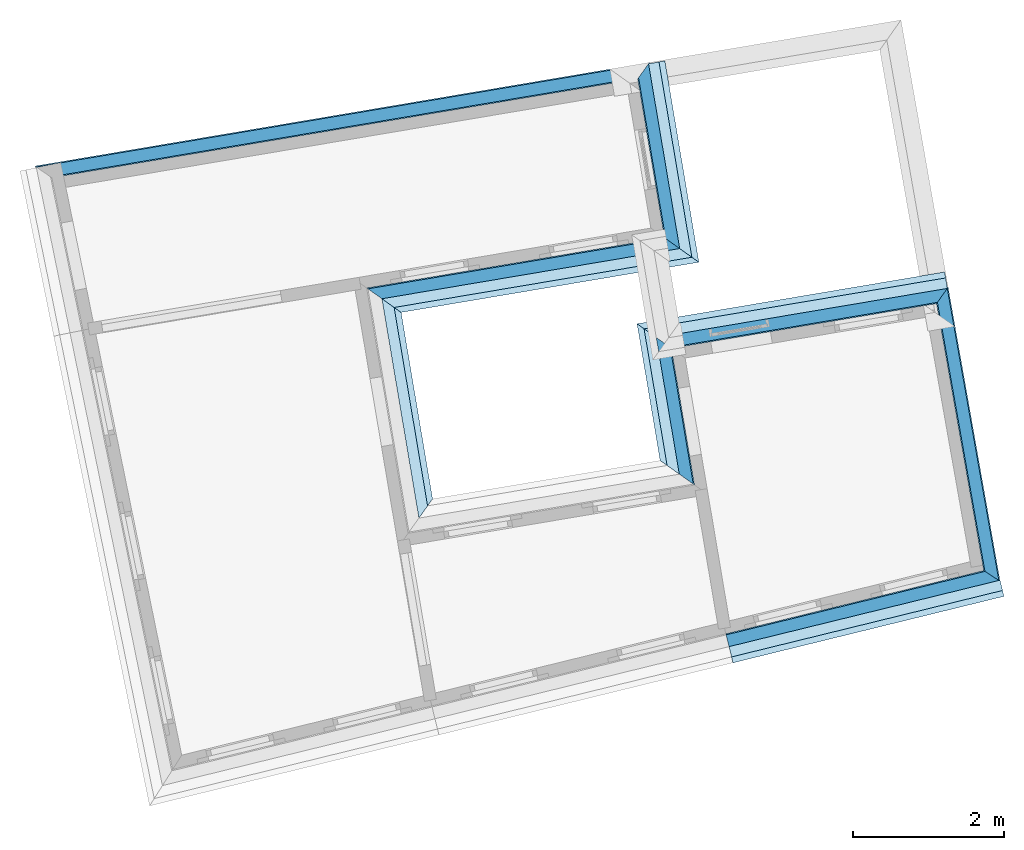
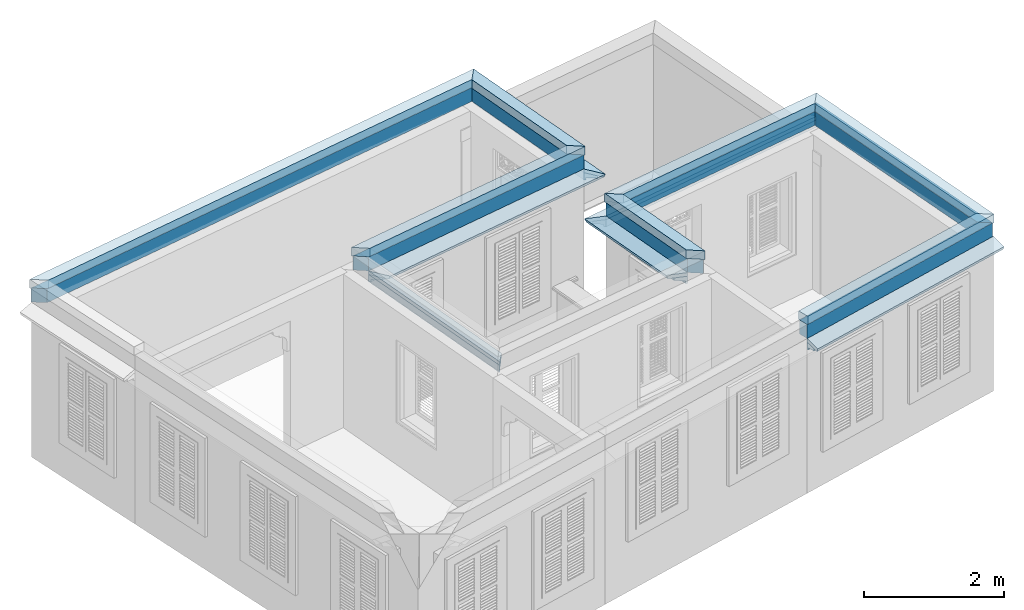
# One storey, part 11 of 12: 26 roofs.
"""IFC4 building model written with IfcOpenShell, lengths in metres."""

from ifc_helpers import new_model, si_unit, frame, origin_with_axes, place, context, subcontext, project, spatial, polyline, outline, extrude, clip, halfspace, material_profile, profile_set, profile_usage, type_object, element, save


model = new_model("IFC4")

# Units and contexts
model_context = context("Model", 3, world=origin_with_axes())
body_context = subcontext(model_context, "Body", "Model", "MODEL_VIEW")
ifc_project = project(units=[si_unit("PLANEANGLEUNIT", "RADIAN"), si_unit("MASSUNIT", "GRAM", prefix="KILO"), si_unit("FORCEUNIT", "NEWTON", prefix="KILO"), si_unit("LENGTHUNIT", "METRE"), si_unit("AREAUNIT", "SQUARE_METRE"), si_unit("VOLUMEUNIT", "CUBIC_METRE")], contexts=[model_context, model_context])

# Site, building, storey
site_placement = place(None, origin_with_axes())
site = spatial("IfcSite", under=ifc_project, at=site_placement, Name="Site plot-6", CompositionType="ELEMENT")
building_placement = place(None, origin_with_axes())
building = spatial("IfcBuilding", under=site, at=building_placement, Name="Building plot-6", CompositionType="ELEMENT")
storey_placement = place(None, frame((0.0, 0.0, 3.6), z_axis=(0.0, 0.0, 1.0), x_axis=(1.0, 0.0, 0.0)))
storey = spatial("IfcBuildingStorey", under=building, at=storey_placement, Name="plot-6 1", CompositionType="ELEMENT", Elevation=3.6)

# Roofs
ifc_material_profile_1 = material_profile(None, outline(polyline([(0.25, 0.0), (0.25, 0.245), (0.09, 0.245), (0.09, 0.0), (0.25, 0.0)])))
ifc_profile_set_1 = profile_set([ifc_material_profile_1])
ifc_profile_usage_1 = profile_usage(ifc_profile_set_1)
roof_type_1 = type_object("IfcRoofType", Name="roofline_0", PredefinedType="FREEFORM", material=ifc_profile_set_1)
roof_1_placement = place(storey_placement, frame((-3.73275172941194, 1.57765609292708, 2.7), z_axis=(0.986076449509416, 0.166292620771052, 0.0), x_axis=(-0.166292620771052, 0.986076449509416, 0.0)))
element("IfcRoof", 1, at=roof_1_placement, inside=storey, type_object=roof_type_1, material=ifc_profile_usage_1, Name="roofline_0", context=body_context, shape_type="Clipping", body=[
    clip(clip(extrude(outline(polyline([(0.25, 0.0), (0.25, 0.245), (0.09, 0.245), (0.09, 0.0), (0.25, 0.0)])), origin_with_axes(), (0.0, 0.0, 1.0), 5.39941404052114), halfspace(frame((0.0, 0.0, 4.39941404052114), z_axis=(0.704331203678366, 0.0, -0.709871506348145), x_axis=(0.0, 1.0, 0.0)), True)), halfspace(frame((0.0, 0.0, 1.0), z_axis=(-0.707106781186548, 0.0, -0.707106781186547), x_axis=(0.0, 1.0, 0.0)), False)),
])
ifc_profile_usage_2 = profile_usage(ifc_profile_set_1)
roof_2_placement = place(storey_placement, frame((-2.27599194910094, -1.04709364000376, 2.7), z_axis=(-0.16629262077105, 0.986076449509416, 0.0), x_axis=(-0.986076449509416, -0.16629262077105, 0.0)))
element("IfcRoof", 2, at=roof_2_placement, inside=storey, type_object=roof_type_1, material=ifc_profile_usage_2, Name="roofline_0", context=body_context, shape_type="Clipping", body=[
    clip(clip(extrude(outline(polyline([(0.25, 0.0), (0.25, 0.245), (0.09, 0.245), (0.09, 0.0), (0.25, 0.0)])), origin_with_axes(), (0.0, 0.0, 1.0), 3.83045229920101), halfspace(frame((0.0, 0.0, 2.83045229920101), z_axis=(0.707106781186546, 0.0, -0.707106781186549), x_axis=(0.0, 1.0, 0.0)), True)), halfspace(frame((0.0, 0.0, 1.0), z_axis=(0.707106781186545, 0.0, -0.70710678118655), x_axis=(0.0, 1.0, 0.0)), False)),
])
ifc_profile_usage_3 = profile_usage(ifc_profile_set_1)
roof_3_placement = place(storey_placement, frame((-2.02778721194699, 3.49460610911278, 2.7), z_axis=(-0.986076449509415, -0.166292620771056, 0.0), x_axis=(0.166292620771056, -0.986076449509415, 0.0)))
element("IfcRoof", 3, at=roof_3_placement, inside=storey, type_object=roof_type_1, material=ifc_profile_usage_3, Name="roofline_0", context=body_context, shape_type="Clipping", body=[
    clip(clip(extrude(outline(polyline([(0.25, 0.0), (0.25, 0.245), (0.09, 0.245), (0.09, 0.0), (0.25, 0.0)])), origin_with_axes(), (0.0, 0.0, 1.0), 5.98805094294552), halfspace(frame((0.0, 0.0, 4.98805094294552), z_axis=(-0.707106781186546, 0.0, -0.707106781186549), x_axis=(0.0, 1.0, 0.0)), True)), halfspace(frame((0.0, 0.0, 1.0), z_axis=(-0.707106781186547, 0.0, -0.707106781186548), x_axis=(0.0, 1.0, 0.0)), False)),
])
ifc_profile_usage_4 = profile_usage(ifc_profile_set_1)
roof_4_placement = place(storey_placement, frame((-3.50871712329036, 6.26267908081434, 2.7), z_axis=(0.166292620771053, -0.986076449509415, 0.0), x_axis=(0.986076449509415, 0.166292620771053, 0.0)))
element("IfcRoof", 4, at=roof_4_placement, inside=storey, type_object=roof_type_1, material=ifc_profile_usage_4, Name="roofline_0", context=body_context, shape_type="Clipping", body=[
    clip(clip(extrude(outline(polyline([(0.25, 0.0), (0.25, 0.245), (0.09, 0.245), (0.09, 0.0), (0.25, 0.0)])), origin_with_axes(), (0.0, 0.0, 1.0), 3.975799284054), halfspace(frame((0.0, 0.0, 2.975799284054), z_axis=(0.707106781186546, 0.0, -0.707106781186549), x_axis=(0.0, 1.0, 0.0)), True)), halfspace(frame((0.0, 0.0, 1.0), z_axis=(-0.707106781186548, 0.0, -0.707106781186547), x_axis=(0.0, 1.0, 0.0)), False)),
])
ifc_profile_usage_5 = profile_usage(ifc_profile_set_1)
roof_5_placement = place(storey_placement, frame((-11.9140692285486, 3.83107448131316, 2.7), z_axis=(0.986076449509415, 0.166292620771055, 0.0), x_axis=(-0.166292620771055, 0.986076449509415, 0.0)))
element("IfcRoof", 5, at=roof_5_placement, inside=storey, type_object=roof_type_1, material=ifc_profile_usage_5, Name="roofline_0", context=body_context, shape_type="Clipping", body=[
    clip(clip(extrude(outline(polyline([(0.25, 0.0), (0.25, 0.245), (0.09, 0.245), (0.09, 0.0), (0.25, 0.0)])), origin_with_axes(), (0.0, 0.0, 1.0), 9.69267766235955), halfspace(frame((0.0, 0.0, 8.69267766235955), z_axis=(0.707106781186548, 0.0, -0.707106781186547), x_axis=(0.0, 1.0, 0.0)), True)), halfspace(frame((0.0, 0.0, 1.0), z_axis=(-0.719105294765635, 0.0, -0.694901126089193), x_axis=(0.0, 1.0, 0.0)), False)),
])
ifc_profile_usage_6 = profile_usage(ifc_profile_set_1)
roof_6_placement = place(storey_placement, frame((2.17428946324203, -0.834754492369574, 2.7), z_axis=(-0.971213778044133, -0.238209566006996, 0.0), x_axis=(0.238209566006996, -0.971213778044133, 0.0)))
element("IfcRoof", 6, at=roof_6_placement, inside=storey, type_object=roof_type_1, material=ifc_profile_usage_6, Name="roofline_0", context=body_context, shape_type="Clipping", body=[
    clip(clip(extrude(outline(polyline([(0.25, 0.0), (0.25, 0.245), (0.09, 0.245), (0.09, 0.0), (0.25, 0.0)])), origin_with_axes(), (0.0, 0.0, 1.0), 5.43558857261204), halfspace(frame((0.0, 0.0, 4.43558857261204), z_axis=(-6.12323399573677e-17, 0.0, -1.0), x_axis=(0.0, 1.0, 0.0)), True)), halfspace(frame((0.0, 0.0, 1.0), z_axis=(-0.683530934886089, 0.0, -0.729921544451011), x_axis=(0.0, 1.0, 0.0)), False)),
])
ifc_profile_usage_7 = profile_usage(ifc_profile_set_1)
roof_7_placement = place(storey_placement, frame((0.431393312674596, 3.29398944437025, 2.7), z_axis=(0.174013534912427, -0.984743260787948, 0.0), x_axis=(0.984743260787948, 0.174013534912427, 0.0)))
element("IfcRoof", 7, at=roof_7_placement, inside=storey, type_object=roof_type_1, material=ifc_profile_usage_7, Name="roofline_0", context=body_context, shape_type="Clipping", body=[
    clip(clip(extrude(outline(polyline([(0.25, 0.0), (0.25, 0.245), (0.09, 0.245), (0.09, 0.0), (0.25, 0.0)])), origin_with_axes(), (0.0, 0.0, 1.0), 5.43461120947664), halfspace(frame((0.0, 0.0, 4.43461120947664), z_axis=(0.683530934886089, 0.0, -0.729921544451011), x_axis=(0.0, 1.0, 0.0)), True)), halfspace(frame((0.0, 0.0, 1.0), z_axis=(-0.704331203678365, 0.0, -0.709871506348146), x_axis=(0.0, 1.0, 0.0)), False)),
])
ifc_material_profile_2 = material_profile(None, outline(polyline([(0.265, 0.245), (0.265, 0.395), (0.075, 0.395), (0.075, 0.245), (0.265, 0.245)])))
ifc_profile_set_2 = profile_set([ifc_material_profile_2])
ifc_profile_usage_8 = profile_usage(ifc_profile_set_2)
roof_type_2 = type_object("IfcRoofType", Name="roofline_1", PredefinedType="FREEFORM", material=ifc_profile_set_2)
roof_8_placement = place(storey_placement, frame((-3.73275172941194, 1.57765609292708, 2.7), z_axis=(0.986076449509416, 0.166292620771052, 0.0), x_axis=(-0.166292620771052, 0.986076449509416, 0.0)))
element("IfcRoof", 8, at=roof_8_placement, inside=storey, type_object=roof_type_2, material=ifc_profile_usage_8, Name="roofline_1", context=body_context, shape_type="Clipping", body=[
    clip(clip(extrude(outline(polyline([(0.265, 0.245), (0.265, 0.395), (0.075, 0.395), (0.075, 0.245), (0.265, 0.245)])), origin_with_axes(), (0.0, 0.0, 1.0), 5.39941404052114), halfspace(frame((0.0, 0.0, 4.39941404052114), z_axis=(0.704331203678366, 0.0, -0.709871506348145), x_axis=(0.0, 1.0, 0.0)), True)), halfspace(frame((0.0, 0.0, 1.0), z_axis=(-0.707106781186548, 0.0, -0.707106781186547), x_axis=(0.0, 1.0, 0.0)), False)),
])
ifc_profile_usage_9 = profile_usage(ifc_profile_set_2)
roof_9_placement = place(storey_placement, frame((-2.27599194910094, -1.04709364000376, 2.7), z_axis=(-0.16629262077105, 0.986076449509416, 0.0), x_axis=(-0.986076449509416, -0.16629262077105, 0.0)))
element("IfcRoof", 9, at=roof_9_placement, inside=storey, type_object=roof_type_2, material=ifc_profile_usage_9, Name="roofline_1", context=body_context, shape_type="Clipping", body=[
    clip(clip(extrude(outline(polyline([(0.265, 0.245), (0.265, 0.395), (0.075, 0.395), (0.075, 0.245), (0.265, 0.245)])), origin_with_axes(), (0.0, 0.0, 1.0), 3.83045229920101), halfspace(frame((0.0, 0.0, 2.83045229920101), z_axis=(0.707106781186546, 0.0, -0.707106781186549), x_axis=(0.0, 1.0, 0.0)), True)), halfspace(frame((0.0, 0.0, 1.0), z_axis=(0.707106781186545, 0.0, -0.70710678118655), x_axis=(0.0, 1.0, 0.0)), False)),
])
ifc_profile_usage_10 = profile_usage(ifc_profile_set_2)
roof_10_placement = place(storey_placement, frame((-2.02778721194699, 3.49460610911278, 2.7), z_axis=(-0.986076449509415, -0.166292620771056, 0.0), x_axis=(0.166292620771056, -0.986076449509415, 0.0)))
element("IfcRoof", 10, at=roof_10_placement, inside=storey, type_object=roof_type_2, material=ifc_profile_usage_10, Name="roofline_1", context=body_context, shape_type="Clipping", body=[
    clip(clip(extrude(outline(polyline([(0.265, 0.245), (0.265, 0.395), (0.075, 0.395), (0.075, 0.245), (0.265, 0.245)])), origin_with_axes(), (0.0, 0.0, 1.0), 5.98805094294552), halfspace(frame((0.0, 0.0, 4.98805094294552), z_axis=(-0.707106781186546, 0.0, -0.707106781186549), x_axis=(0.0, 1.0, 0.0)), True)), halfspace(frame((0.0, 0.0, 1.0), z_axis=(-0.707106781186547, 0.0, -0.707106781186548), x_axis=(0.0, 1.0, 0.0)), False)),
])
ifc_profile_usage_11 = profile_usage(ifc_profile_set_2)
roof_11_placement = place(storey_placement, frame((-3.50871712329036, 6.26267908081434, 2.7), z_axis=(0.166292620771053, -0.986076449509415, 0.0), x_axis=(0.986076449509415, 0.166292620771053, 0.0)))
element("IfcRoof", 11, at=roof_11_placement, inside=storey, type_object=roof_type_2, material=ifc_profile_usage_11, Name="roofline_1", context=body_context, shape_type="Clipping", body=[
    clip(clip(extrude(outline(polyline([(0.265, 0.245), (0.265, 0.395), (0.075, 0.395), (0.075, 0.245), (0.265, 0.245)])), origin_with_axes(), (0.0, 0.0, 1.0), 3.975799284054), halfspace(frame((0.0, 0.0, 2.975799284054), z_axis=(0.707106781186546, 0.0, -0.707106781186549), x_axis=(0.0, 1.0, 0.0)), True)), halfspace(frame((0.0, 0.0, 1.0), z_axis=(-0.707106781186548, 0.0, -0.707106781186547), x_axis=(0.0, 1.0, 0.0)), False)),
])
ifc_profile_usage_12 = profile_usage(ifc_profile_set_2)
roof_12_placement = place(storey_placement, frame((-11.9140692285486, 3.83107448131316, 2.7), z_axis=(0.986076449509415, 0.166292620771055, 0.0), x_axis=(-0.166292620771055, 0.986076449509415, 0.0)))
element("IfcRoof", 12, at=roof_12_placement, inside=storey, type_object=roof_type_2, material=ifc_profile_usage_12, Name="roofline_1", context=body_context, shape_type="Clipping", body=[
    clip(clip(extrude(outline(polyline([(0.265, 0.245), (0.265, 0.395), (0.075, 0.395), (0.075, 0.245), (0.265, 0.245)])), origin_with_axes(), (0.0, 0.0, 1.0), 9.69267766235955), halfspace(frame((0.0, 0.0, 8.69267766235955), z_axis=(0.707106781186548, 0.0, -0.707106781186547), x_axis=(0.0, 1.0, 0.0)), True)), halfspace(frame((0.0, 0.0, 1.0), z_axis=(-0.719105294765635, 0.0, -0.694901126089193), x_axis=(0.0, 1.0, 0.0)), False)),
])
ifc_profile_usage_13 = profile_usage(ifc_profile_set_2)
roof_13_placement = place(storey_placement, frame((2.17428946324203, -0.834754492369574, 2.7), z_axis=(-0.971213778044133, -0.238209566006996, 0.0), x_axis=(0.238209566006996, -0.971213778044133, 0.0)))
element("IfcRoof", 13, at=roof_13_placement, inside=storey, type_object=roof_type_2, material=ifc_profile_usage_13, Name="roofline_1", context=body_context, shape_type="Clipping", body=[
    clip(clip(extrude(outline(polyline([(0.265, 0.245), (0.265, 0.395), (0.075, 0.395), (0.075, 0.245), (0.265, 0.245)])), origin_with_axes(), (0.0, 0.0, 1.0), 5.43558857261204), halfspace(frame((0.0, 0.0, 4.43558857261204), z_axis=(-6.12323399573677e-17, 0.0, -1.0), x_axis=(0.0, 1.0, 0.0)), True)), halfspace(frame((0.0, 0.0, 1.0), z_axis=(-0.683530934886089, 0.0, -0.729921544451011), x_axis=(0.0, 1.0, 0.0)), False)),
])
ifc_profile_usage_14 = profile_usage(ifc_profile_set_2)
roof_14_placement = place(storey_placement, frame((0.431393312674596, 3.29398944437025, 2.7), z_axis=(0.174013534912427, -0.984743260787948, 0.0), x_axis=(0.984743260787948, 0.174013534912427, 0.0)))
element("IfcRoof", 14, at=roof_14_placement, inside=storey, type_object=roof_type_2, material=ifc_profile_usage_14, Name="roofline_1", context=body_context, shape_type="Clipping", body=[
    clip(clip(extrude(outline(polyline([(0.265, 0.245), (0.265, 0.395), (0.075, 0.395), (0.075, 0.245), (0.265, 0.245)])), origin_with_axes(), (0.0, 0.0, 1.0), 5.43461120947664), halfspace(frame((0.0, 0.0, 4.43461120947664), z_axis=(0.683530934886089, 0.0, -0.729921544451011), x_axis=(0.0, 1.0, 0.0)), True)), halfspace(frame((0.0, 0.0, 1.0), z_axis=(-0.704331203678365, 0.0, -0.709871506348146), x_axis=(0.0, 1.0, 0.0)), False)),
])
ifc_material_profile_3 = material_profile(None, outline(polyline([(0.25, -0.19), (0.275, -0.19), (0.275, -0.15), (0.39, -0.15), (0.39, -0.107509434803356), (0.25, -0.0629639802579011), (0.25, -0.19)])))
ifc_profile_set_3 = profile_set([ifc_material_profile_3])
ifc_profile_usage_15 = profile_usage(ifc_profile_set_3)
roof_type_3 = type_object("IfcRoofType", Name="eaves_0", PredefinedType="FREEFORM", material=ifc_profile_set_3)
roof_15_placement = place(storey_placement, frame((-3.73275172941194, 1.57765609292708, 2.7), z_axis=(0.986076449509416, 0.166292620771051, 0.0), x_axis=(-0.166292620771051, 0.986076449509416, 0.0)))
element("IfcRoof", 15, at=roof_15_placement, inside=storey, type_object=roof_type_3, material=ifc_profile_usage_15, Name="eaves_0", context=body_context, shape_type="Clipping", body=[
    clip(clip(extrude(outline(polyline([(0.25, -0.19), (0.275, -0.19), (0.275, -0.15), (0.39, -0.15), (0.39, -0.107509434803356), (0.25, -0.0629639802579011), (0.25, -0.19)])), origin_with_axes(), (0.0, 0.0, 1.0), 5.64941404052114), halfspace(frame((0.0, 0.0, 4.64941404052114), z_axis=(-6.12323399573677e-17, 0.0, -1.0), x_axis=(0.0, 1.0, 0.0)), True)), halfspace(frame((0.0, 0.0, 1.0), z_axis=(-0.707106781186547, 0.0, -0.707106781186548), x_axis=(0.0, 1.0, 0.0)), False)),
])
ifc_profile_usage_16 = profile_usage(ifc_profile_set_3)
roof_16_placement = place(storey_placement, frame((-2.27599194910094, -1.04709364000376, 2.7), z_axis=(-0.16629262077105, 0.986076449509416, 0.0), x_axis=(-0.986076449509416, -0.16629262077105, 0.0)))
element("IfcRoof", 16, at=roof_16_placement, inside=storey, type_object=roof_type_3, material=ifc_profile_usage_16, Name="eaves_0", context=body_context, shape_type="Clipping", body=[
    clip(clip(extrude(outline(polyline([(0.25, -0.19), (0.275, -0.19), (0.275, -0.15), (0.39, -0.15), (0.39, -0.107509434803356), (0.25, -0.0629639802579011), (0.25, -0.19)])), origin_with_axes(), (0.0, 0.0, 1.0), 3.83045229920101), halfspace(frame((0.0, 0.0, 2.83045229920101), z_axis=(0.707106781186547, 0.0, -0.707106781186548), x_axis=(0.0, 1.0, 0.0)), True)), halfspace(frame((0.0, 0.0, 1.0), z_axis=(0.707106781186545, 0.0, -0.70710678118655), x_axis=(0.0, 1.0, 0.0)), False)),
])
ifc_profile_usage_17 = profile_usage(ifc_profile_set_3)
roof_17_placement = place(storey_placement, frame((-7.11267939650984, 3.65120649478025, 2.7), z_axis=(0.166292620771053, -0.986076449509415, 0.0), x_axis=(0.986076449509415, 0.166292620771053, 0.0)))
element("IfcRoof", 17, at=roof_17_placement, inside=storey, type_object=roof_type_3, material=ifc_profile_usage_17, Name="eaves_0", context=body_context, shape_type="Clipping", body=[
    clip(clip(extrude(outline(polyline([(0.25, -0.19), (0.275, -0.19), (0.275, -0.15), (0.39, -0.15), (0.39, -0.107509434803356), (0.25, -0.0629639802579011), (0.25, -0.19)])), origin_with_axes(), (0.0, 0.0, 1.0), 5.43718854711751), halfspace(frame((0.0, 0.0, 4.43718854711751), z_axis=(-0.707106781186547, 0.0, -0.707106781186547), x_axis=(0.0, 1.0, 0.0)), True)), halfspace(frame((0.0, 0.0, 1.0), z_axis=(0.707106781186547, 0.0, -0.707106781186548), x_axis=(0.0, 1.0, 0.0)), False)),
])
ifc_profile_usage_18 = profile_usage(ifc_profile_set_3)
roof_18_placement = place(storey_placement, frame((-2.02778721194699, 3.49460610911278, 2.7), z_axis=(-0.986076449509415, -0.166292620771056, 0.0), x_axis=(0.166292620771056, -0.986076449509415, 0.0)))
element("IfcRoof", 18, at=roof_18_placement, inside=storey, type_object=roof_type_3, material=ifc_profile_usage_18, Name="eaves_0", context=body_context, shape_type="Clipping", body=[
    clip(clip(extrude(outline(polyline([(0.25, -0.19), (0.275, -0.19), (0.275, -0.15), (0.39, -0.15), (0.39, -0.107509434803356), (0.25, -0.0629639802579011), (0.25, -0.19)])), origin_with_axes(), (0.0, 0.0, 1.0), 5.98805094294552), halfspace(frame((0.0, 0.0, 4.98805094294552), z_axis=(-0.707106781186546, 0.0, -0.707106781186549), x_axis=(0.0, 1.0, 0.0)), True)), halfspace(frame((0.0, 0.0, 1.0), z_axis=(-0.707106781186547, 0.0, -0.707106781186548), x_axis=(0.0, 1.0, 0.0)), False)),
])
ifc_profile_usage_19 = profile_usage(ifc_profile_set_3)
roof_19_placement = place(storey_placement, frame((-3.55029027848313, 6.5091981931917, 2.7), z_axis=(0.166292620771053, -0.986076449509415, 0.0), x_axis=(0.986076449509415, 0.166292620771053, 0.0)))
element("IfcRoof", 19, at=roof_19_placement, inside=storey, type_object=roof_type_3, material=ifc_profile_usage_19, Name="eaves_0", context=body_context, shape_type="Clipping", body=[
    clip(clip(extrude(outline(polyline([(0.25, -0.19), (0.275, -0.19), (0.275, -0.15), (0.39, -0.15), (0.39, -0.107509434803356), (0.25, -0.0629639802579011), (0.25, -0.19)])), origin_with_axes(), (0.0, 0.0, 1.0), 4.225799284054), halfspace(frame((0.0, 0.0, 3.225799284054), z_axis=(0.707106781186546, 0.0, -0.707106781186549), x_axis=(0.0, 1.0, 0.0)), True)), halfspace(frame((0.0, 0.0, 1.0), z_axis=(-2.83276944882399e-16, 0.0, -1.0), x_axis=(0.0, 1.0, 0.0)), False)),
])
ifc_material_profile_4 = material_profile(None, outline(polyline([(0.25, -0.0629639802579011), (0.451807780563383, -0.127175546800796), (0.47, -0.07), (0.25, 0.0), (0.25, -0.0629639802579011)])))
ifc_profile_set_4 = profile_set([ifc_material_profile_4])
ifc_profile_usage_20 = profile_usage(ifc_profile_set_4)
roof_type_4 = type_object("IfcRoofType", Name="eaves_1", PredefinedType="FREEFORM", material=ifc_profile_set_4)
roof_20_placement = place(storey_placement, frame((-3.73275172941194, 1.57765609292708, 2.7), z_axis=(0.986076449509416, 0.166292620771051, 0.0), x_axis=(-0.166292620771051, 0.986076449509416, 0.0)))
element("IfcRoof", 20, at=roof_20_placement, inside=storey, type_object=roof_type_4, material=ifc_profile_usage_20, Name="eaves_1", context=body_context, shape_type="Clipping", body=[
    clip(clip(extrude(outline(polyline([(0.25, -0.0629639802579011), (0.451807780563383, -0.127175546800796), (0.47, -0.07), (0.25, 0.0), (0.25, -0.0629639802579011)])), origin_with_axes(), (0.0, 0.0, 1.0), 5.64941404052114), halfspace(frame((0.0, 0.0, 4.64941404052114), z_axis=(-6.12323399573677e-17, 0.0, -1.0), x_axis=(0.0, 1.0, 0.0)), True)), halfspace(frame((0.0, 0.0, 1.0), z_axis=(-0.707106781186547, 0.0, -0.707106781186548), x_axis=(0.0, 1.0, 0.0)), False)),
])
ifc_profile_usage_21 = profile_usage(ifc_profile_set_4)
roof_21_placement = place(storey_placement, frame((-2.27599194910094, -1.04709364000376, 2.7), z_axis=(-0.16629262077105, 0.986076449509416, 0.0), x_axis=(-0.986076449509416, -0.16629262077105, 0.0)))
element("IfcRoof", 21, at=roof_21_placement, inside=storey, type_object=roof_type_4, material=ifc_profile_usage_21, Name="eaves_1", context=body_context, shape_type="Clipping", body=[
    clip(clip(extrude(outline(polyline([(0.25, -0.0629639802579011), (0.451807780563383, -0.127175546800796), (0.47, -0.07), (0.25, 0.0), (0.25, -0.0629639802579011)])), origin_with_axes(), (0.0, 0.0, 1.0), 3.83045229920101), halfspace(frame((0.0, 0.0, 2.83045229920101), z_axis=(0.707106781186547, 0.0, -0.707106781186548), x_axis=(0.0, 1.0, 0.0)), True)), halfspace(frame((0.0, 0.0, 1.0), z_axis=(0.707106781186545, 0.0, -0.70710678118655), x_axis=(0.0, 1.0, 0.0)), False)),
])
ifc_profile_usage_22 = profile_usage(ifc_profile_set_4)
roof_22_placement = place(storey_placement, frame((-7.11267939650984, 3.65120649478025, 2.7), z_axis=(0.166292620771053, -0.986076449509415, 0.0), x_axis=(0.986076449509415, 0.166292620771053, 0.0)))
element("IfcRoof", 22, at=roof_22_placement, inside=storey, type_object=roof_type_4, material=ifc_profile_usage_22, Name="eaves_1", context=body_context, shape_type="Clipping", body=[
    clip(clip(extrude(outline(polyline([(0.25, -0.0629639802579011), (0.451807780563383, -0.127175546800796), (0.47, -0.07), (0.25, 0.0), (0.25, -0.0629639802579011)])), origin_with_axes(), (0.0, 0.0, 1.0), 5.43718854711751), halfspace(frame((0.0, 0.0, 4.43718854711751), z_axis=(-0.707106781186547, 0.0, -0.707106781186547), x_axis=(0.0, 1.0, 0.0)), True)), halfspace(frame((0.0, 0.0, 1.0), z_axis=(0.707106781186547, 0.0, -0.707106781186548), x_axis=(0.0, 1.0, 0.0)), False)),
])
ifc_profile_usage_23 = profile_usage(ifc_profile_set_4)
roof_23_placement = place(storey_placement, frame((-2.02778721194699, 3.49460610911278, 2.7), z_axis=(-0.986076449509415, -0.166292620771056, 0.0), x_axis=(0.166292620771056, -0.986076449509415, 0.0)))
element("IfcRoof", 23, at=roof_23_placement, inside=storey, type_object=roof_type_4, material=ifc_profile_usage_23, Name="eaves_1", context=body_context, shape_type="Clipping", body=[
    clip(clip(extrude(outline(polyline([(0.25, -0.0629639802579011), (0.451807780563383, -0.127175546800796), (0.47, -0.07), (0.25, 0.0), (0.25, -0.0629639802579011)])), origin_with_axes(), (0.0, 0.0, 1.0), 5.98805094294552), halfspace(frame((0.0, 0.0, 4.98805094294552), z_axis=(-0.707106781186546, 0.0, -0.707106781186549), x_axis=(0.0, 1.0, 0.0)), True)), halfspace(frame((0.0, 0.0, 1.0), z_axis=(-0.707106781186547, 0.0, -0.707106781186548), x_axis=(0.0, 1.0, 0.0)), False)),
])
ifc_profile_usage_24 = profile_usage(ifc_profile_set_4)
roof_24_placement = place(storey_placement, frame((-3.55029027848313, 6.5091981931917, 2.7), z_axis=(0.166292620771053, -0.986076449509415, 0.0), x_axis=(0.986076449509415, 0.166292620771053, 0.0)))
element("IfcRoof", 24, at=roof_24_placement, inside=storey, type_object=roof_type_4, material=ifc_profile_usage_24, Name="eaves_1", context=body_context, shape_type="Clipping", body=[
    clip(clip(extrude(outline(polyline([(0.25, -0.0629639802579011), (0.451807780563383, -0.127175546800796), (0.47, -0.07), (0.25, 0.0), (0.25, -0.0629639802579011)])), origin_with_axes(), (0.0, 0.0, 1.0), 4.225799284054), halfspace(frame((0.0, 0.0, 3.225799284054), z_axis=(0.707106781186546, 0.0, -0.707106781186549), x_axis=(0.0, 1.0, 0.0)), True)), halfspace(frame((0.0, 0.0, 1.0), z_axis=(-2.83276944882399e-16, 0.0, -1.0), x_axis=(0.0, 1.0, 0.0)), False)),
])
ifc_material_profile_5 = material_profile(None, outline(polyline([(0.25, -0.19), (0.275, -0.19), (0.275, -0.15), (0.39, -0.15), (0.39, -0.107509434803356), (0.25, -0.0629639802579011), (0.25, -0.19)])))
ifc_profile_set_5 = profile_set([ifc_material_profile_5])
ifc_profile_usage_25 = profile_usage(ifc_profile_set_5)
roof_type_5 = type_object("IfcRoofType", Name="eaves_0", PredefinedType="FREEFORM", material=ifc_profile_set_5)
roof_25_placement = place(storey_placement, frame((2.41709290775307, -0.775202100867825, 2.7), z_axis=(-0.971213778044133, -0.238209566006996, 0.0), x_axis=(0.238209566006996, -0.971213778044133, 0.0)))
element("IfcRoof", 25, at=roof_25_placement, inside=storey, type_object=roof_type_5, material=ifc_profile_usage_25, Name="eaves_0", context=body_context, shape_type="Clipping", body=[
    clip(clip(extrude(outline(polyline([(0.25, -0.19), (0.275, -0.19), (0.275, -0.15), (0.39, -0.15), (0.39, -0.107509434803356), (0.25, -0.0629639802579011), (0.25, -0.19)])), origin_with_axes(), (0.0, 0.0, 1.0), 5.68558857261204), halfspace(frame((0.0, 0.0, 4.68558857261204), z_axis=(-2.83276944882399e-16, 0.0, -1.0), x_axis=(0.0, 1.0, 0.0)), True)), halfspace(frame((0.0, 0.0, 1.0), z_axis=(-6.12323399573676e-17, 0.0, -1.0), x_axis=(0.0, 1.0, 0.0)), False)),
])
ifc_material_profile_6 = material_profile(None, outline(polyline([(0.25, -0.0629639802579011), (0.451807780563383, -0.127175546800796), (0.47, -0.07), (0.25, 0.0), (0.25, -0.0629639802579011)])))
ifc_profile_set_6 = profile_set([ifc_material_profile_6])
ifc_profile_usage_26 = profile_usage(ifc_profile_set_6)
roof_type_6 = type_object("IfcRoofType", Name="eaves_1", PredefinedType="FREEFORM", material=ifc_profile_set_6)
roof_26_placement = place(storey_placement, frame((2.41709290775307, -0.775202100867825, 2.7), z_axis=(-0.971213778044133, -0.238209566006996, 0.0), x_axis=(0.238209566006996, -0.971213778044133, 0.0)))
element("IfcRoof", 26, at=roof_26_placement, inside=storey, type_object=roof_type_6, material=ifc_profile_usage_26, Name="eaves_1", context=body_context, shape_type="Clipping", body=[
    clip(clip(extrude(outline(polyline([(0.25, -0.0629639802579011), (0.451807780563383, -0.127175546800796), (0.47, -0.07), (0.25, 0.0), (0.25, -0.0629639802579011)])), origin_with_axes(), (0.0, 0.0, 1.0), 5.68558857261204), halfspace(frame((0.0, 0.0, 4.68558857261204), z_axis=(-2.83276944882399e-16, 0.0, -1.0), x_axis=(0.0, 1.0, 0.0)), True)), halfspace(frame((0.0, 0.0, 1.0), z_axis=(-6.12323399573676e-17, 0.0, -1.0), x_axis=(0.0, 1.0, 0.0)), False)),
])

save(model, "model.ifc")
